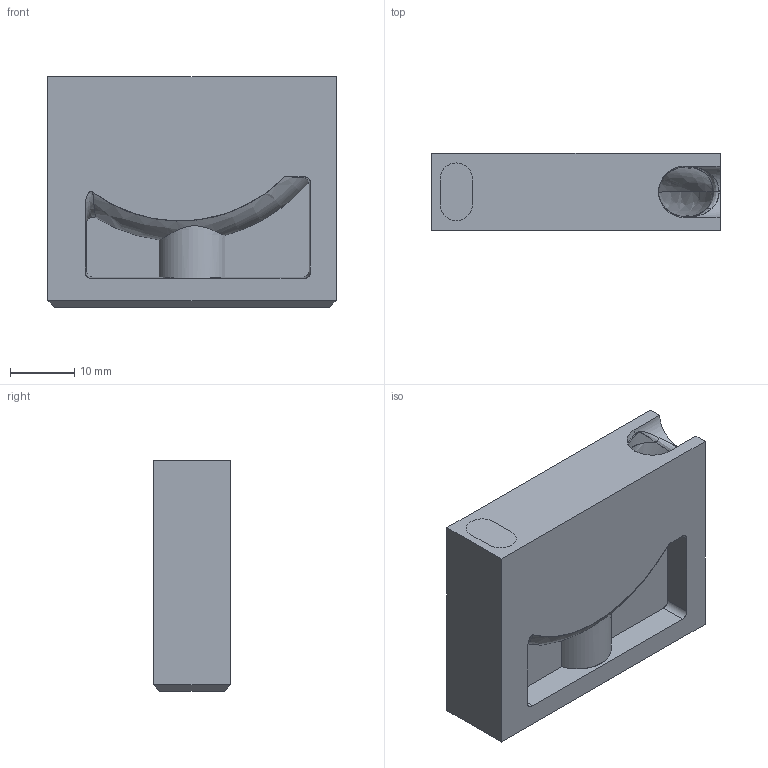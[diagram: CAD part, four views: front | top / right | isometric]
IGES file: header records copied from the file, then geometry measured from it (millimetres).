
Start section: START RECORD GO HERE.
Global section: file name: tgc4.igs; native system: DASSAULT SYSTEMES CATIA V5 R20 - www.3ds.com; preprocessor: CATIA Version 5 Release 20 ; author: Utente; organization: NB04-ASUS; date: 20210304.200806; units: millimetre
Bounding box: 45 x 12 x 36 mm (x, y, z)
Surface area: 7401 mm2 (no closed solid volume)
Topology: 0 solids, 0 shells, 104 faces, 591 edges, 598 vertices
Faces by surface type: revolution 40, bspline 36, plane 28
